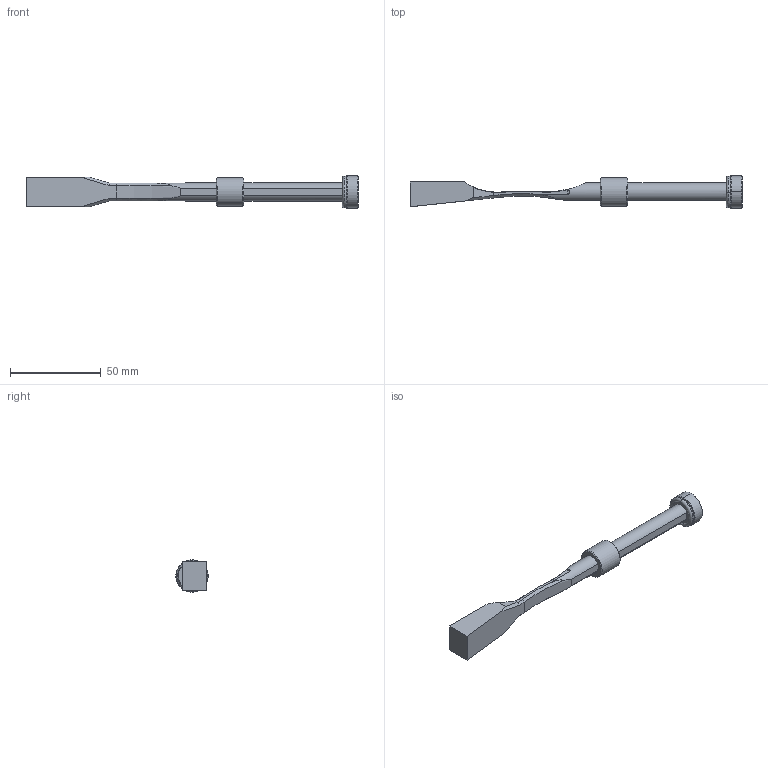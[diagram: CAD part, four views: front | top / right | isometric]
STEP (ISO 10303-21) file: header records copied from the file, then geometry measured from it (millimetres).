
FILE_DESCRIPTION (( 'STEP AP214' ), '1' );
FILE_NAME ('PW101630-TANCADA.STEP', '2020-02-10T08:49:50', ( '' ), ( '' ), 'SwSTEP 2.0', 'SolidWorks 2018', '' );
FILE_SCHEMA (( 'AUTOMOTIVE_DESIGN' ));
Length unit declared in the file: millimetre
Products named in the file (6): 1DIN7984616_DIN 7984 - M6 x 16 --- 16C; 9PW101630 TANCADA; PW101630-TANCADA; 3JT12.5X2.5X17.5; 9FP1808M6; 9CS101615
Assembly tree (5 placements, depth 2):
  PW101630-TANCADA
    9PW101630 TANCADA
    9CS101615
    9FP1808M6
    3JT12.5X2.5X17.5
    1DIN7984616_DIN 7984 - M6 x 16 --- 16C
Bounding box: 183 x 17.8 x 17.8 mm (x, y, z)
Volume: 18417.4 mm3; surface area: 10437.1 mm2
Topology: 5 solids, 5 shells, 106 faces, 237 edges, 140 vertices
Faces by surface type: plane 36, cone 28, cylinder 24, torus 16, bspline 2
Entity records: 3495 total; most frequent: CARTESIAN_POINT 675, DIRECTION 547, ORIENTED_EDGE 466, EDGE_CURVE 233, AXIS2_PLACEMENT_3D 220, VERTEX_POINT 140, EDGE_LOOP 115, CIRCLE 108
